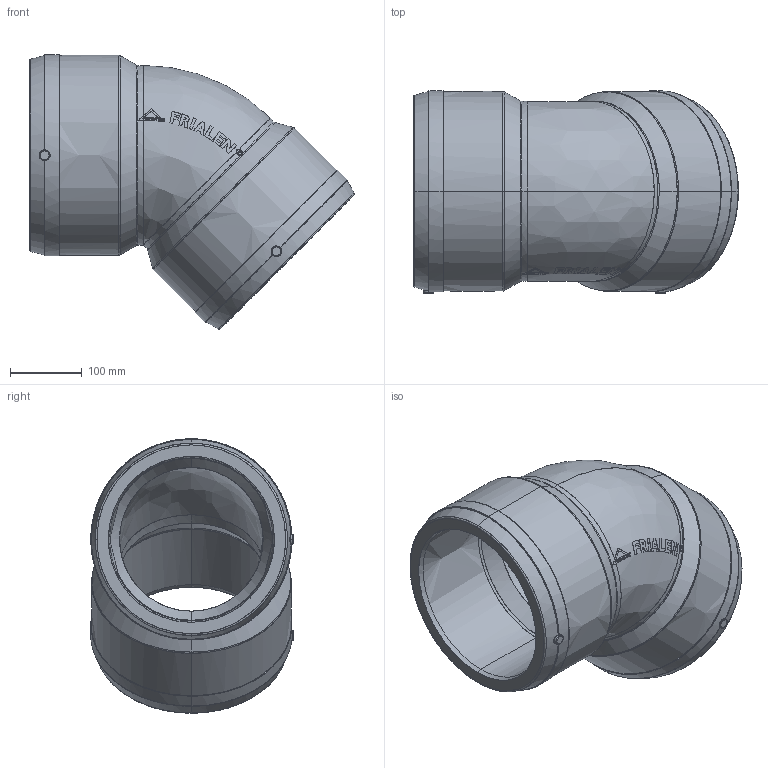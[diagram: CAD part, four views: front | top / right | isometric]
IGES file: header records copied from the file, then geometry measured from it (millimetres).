
Start section:  PTC IGES file: w45_d225_01.igs
Global section: file name: w45_d225_01.igs; native system: Pro/ENGINEER by Parametric Technology Corporation; preprocessor: 2011490; author: mtunjic; organization: Unknown; date: 20130812.112653; units: millimetre
Bounding box: 452.18 x 281.8 x 382.18 mm (x, y, z)
Surface area: 676126.5 mm2 (no closed solid volume)
Topology: 0 solids, 0 shells, 308 faces, 1562 edges, 1560 vertices
Faces by surface type: bspline 308
